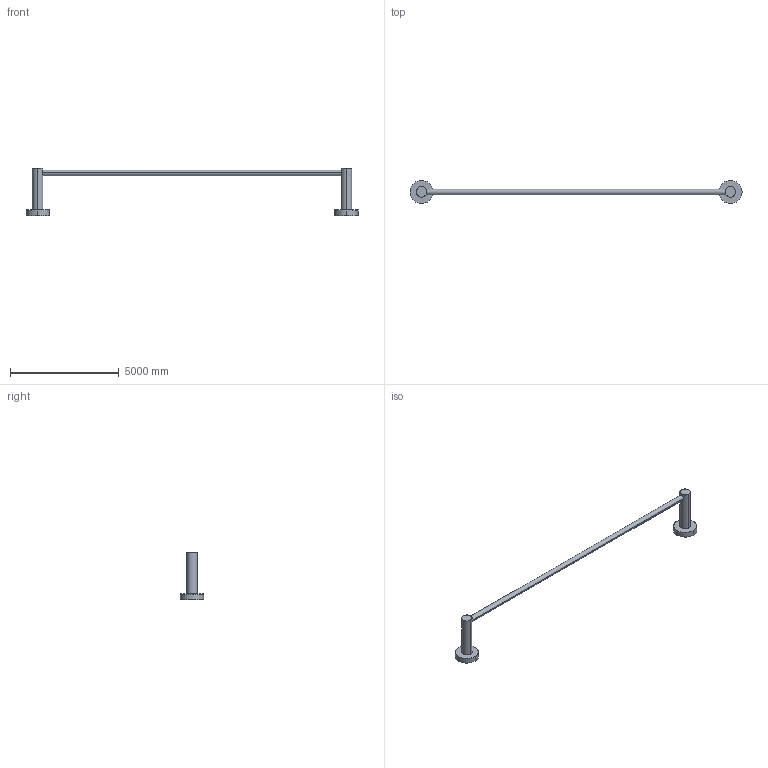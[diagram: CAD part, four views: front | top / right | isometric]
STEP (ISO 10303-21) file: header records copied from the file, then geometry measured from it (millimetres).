
FILE_DESCRIPTION (( 'STEP AP203' ), '1' );
FILE_NAME ('290035(2025).STEP', '2024-12-19T12:47:25', ( '' ), ( '' ), 'SwSTEP 2.0', 'SolidWorks 2024', '' );
FILE_SCHEMA (( 'CONFIG_CONTROL_DESIGN' ));
Length unit declared in the file: millimetre
Products named in the file (1): 290035(2025)
Bounding box: 15240 x 1066.8 x 2159 mm (x, y, z)
Surface area: 42108217 mm2 (no closed solid volume)
Topology: 0 solids, 6 shells, 36 faces, 70 edges, 50 vertices
Faces by surface type: cylinder 20, plane 14, bspline 2
Entity records: 2078 total; most frequent: CARTESIAN_POINT 1257, DIRECTION 162, ORIENTED_EDGE 130, AXIS2_PLACEMENT_3D 71, EDGE_CURVE 70, VERTEX_POINT 50, EDGE_LOOP 45, FACE_OUTER_BOUND 36
